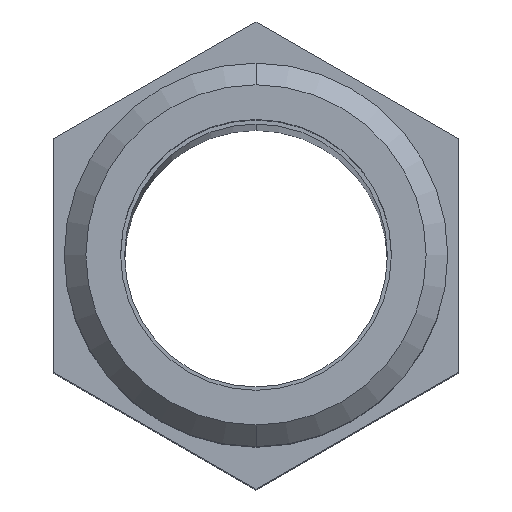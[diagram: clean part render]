
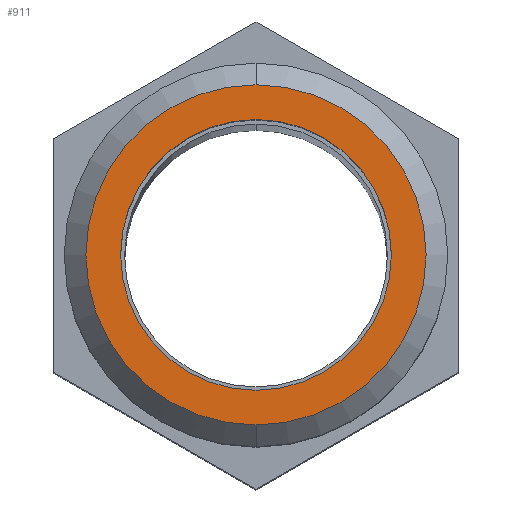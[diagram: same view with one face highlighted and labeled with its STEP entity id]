
A CAD part, top view. The second image highlights one B-rep face of the part: STEP entity #911.
In plain terms, the highlighted planar face has unit normal (0, 0, 1).
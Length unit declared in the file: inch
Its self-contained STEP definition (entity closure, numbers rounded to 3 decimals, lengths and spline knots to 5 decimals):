
#19 = DIRECTION ( 'NONE',  ( 0., -1., 0. ) ) ;
#27 = DIRECTION ( 'NONE',  ( 0., 0., -1. ) ) ;
#44 = CARTESIAN_POINT ( 'NONE',  ( 0., 0., 0.48 ) ) ;
#47 = ORIENTED_EDGE ( 'NONE', *, *, #369, .F. ) ;
#103 = EDGE_CURVE ( 'NONE', #479, #759, #527, .T. ) ;
#124 = EDGE_CURVE ( 'NONE', #785, #768, #454, .T. ) ;
#162 = CARTESIAN_POINT ( 'NONE',  ( 0., -0.2355, 0.48 ) ) ;
#171 = AXIS2_PLACEMENT_3D ( 'NONE', #629, #470, #273 ) ;
#220 = AXIS2_PLACEMENT_3D ( 'NONE', #745, #370, #19 ) ;
#227 = FACE_OUTER_BOUND ( 'NONE', #248, .T. ) ;
#248 = EDGE_LOOP ( 'NONE', ( #47, #425 ) ) ;
#261 = EDGE_LOOP ( 'NONE', ( #774, #424 ) ) ;
#273 = DIRECTION ( 'NONE',  ( 0., 1., 0. ) ) ;
#304 = AXIS2_PLACEMENT_3D ( 'NONE', #848, #678, #399 ) ;
#368 = CARTESIAN_POINT ( 'NONE',  ( 0., 0., 0.48 ) ) ;
#369 = EDGE_CURVE ( 'NONE', #768, #785, #406, .T. ) ;
#370 = DIRECTION ( 'NONE',  ( 0., 0., 1. ) ) ;
#399 = DIRECTION ( 'NONE',  ( 0., 1., 0. ) ) ;
#406 = CIRCLE ( 'NONE', #729, 0.2355 ) ;
#424 = ORIENTED_EDGE ( 'NONE', *, *, #886, .T. ) ;
#425 = ORIENTED_EDGE ( 'NONE', *, *, #124, .F. ) ;
#433 = CARTESIAN_POINT ( 'NONE',  ( 0., -0.1875, 0.48 ) ) ;
#437 = DIRECTION ( 'NONE',  ( 0., 1., 0. ) ) ;
#454 = CIRCLE ( 'NONE', #171, 0.2355 ) ;
#470 = DIRECTION ( 'NONE',  ( 0., 0., -1. ) ) ;
#476 = DIRECTION ( 'NONE',  ( 0., 1., 0. ) ) ;
#479 = VERTEX_POINT ( 'NONE', #784 ) ;
#505 = DIRECTION ( 'NONE',  ( 0., 0., -1. ) ) ;
#507 = CIRCLE ( 'NONE', #716, 0.1875 ) ;
#516 = CARTESIAN_POINT ( 'NONE',  ( 0., 0.2355, 0.48 ) ) ;
#522 = PLANE ( 'NONE',  #220 ) ;
#527 = CIRCLE ( 'NONE', #304, 0.1875 ) ;
#589 = FACE_BOUND ( 'NONE', #261, .T. ) ;
#629 = CARTESIAN_POINT ( 'NONE',  ( 0., 0., 0.48 ) ) ;
#678 = DIRECTION ( 'NONE',  ( 0., 0., -1. ) ) ;
#716 = AXIS2_PLACEMENT_3D ( 'NONE', #368, #505, #437 ) ;
#729 = AXIS2_PLACEMENT_3D ( 'NONE', #44, #27, #476 ) ;
#745 = CARTESIAN_POINT ( 'NONE',  ( 0., 0.1875, 0.48 ) ) ;
#759 = VERTEX_POINT ( 'NONE', #433 ) ;
#768 = VERTEX_POINT ( 'NONE', #516 ) ;
#774 = ORIENTED_EDGE ( 'NONE', *, *, #103, .T. ) ;
#784 = CARTESIAN_POINT ( 'NONE',  ( 0., 0.1875, 0.48 ) ) ;
#785 = VERTEX_POINT ( 'NONE', #162 ) ;
#848 = CARTESIAN_POINT ( 'NONE',  ( 0., 0., 0.48 ) ) ;
#886 = EDGE_CURVE ( 'NONE', #759, #479, #507, .T. ) ;
#911 = ADVANCED_FACE ( 'NONE', ( #589, #227 ), #522, .T. ) ;
